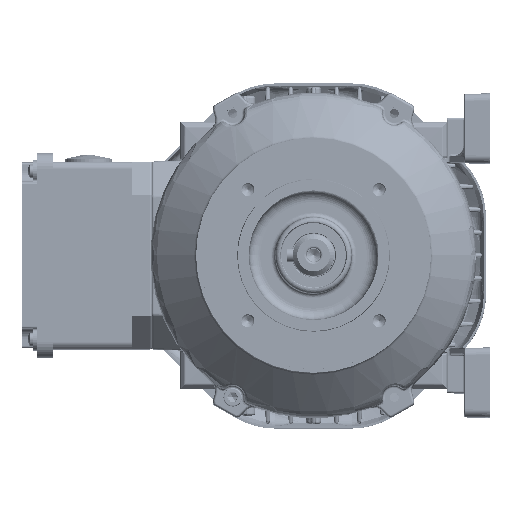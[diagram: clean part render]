
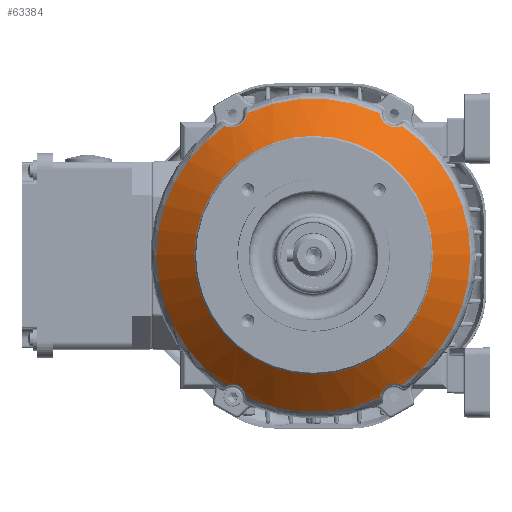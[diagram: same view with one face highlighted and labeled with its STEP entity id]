
A CAD part, top view. The second image highlights one B-rep face of the part: STEP entity #63384.
In plain terms, the highlighted conical face has half-angle 47.493 degrees and reference radius 54.373 mm.
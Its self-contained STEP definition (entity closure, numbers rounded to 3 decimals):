
#59124=CONICAL_SURFACE('',#233389,54.373,47.493);
#63384=ADVANCED_FACE('',(#81230,#81231),#59124,.T.);
#76579=B_SPLINE_CURVE_WITH_KNOTS('',3,(#362060,#362061,#362062,#362063,
#362064,#362065,#362066,#362067,#362068,#362069),.UNSPECIFIED.,.F.,.F.,
(4,2,2,2,4),(0.,0.25,0.5,0.75,1.),
 .UNSPECIFIED.);
#76580=B_SPLINE_CURVE_WITH_KNOTS('',3,(#362073,#362074,#362075,#362076,
#362077,#362078,#362079,#362080,#362081,#362082),.UNSPECIFIED.,.F.,.F.,
(4,2,2,2,4),(0.,0.25,0.5,0.75,1.),.UNSPECIFIED.);
#76581=B_SPLINE_CURVE_WITH_KNOTS('',3,(#362086,#362087,#362088,#362089,
#362090,#362091,#362092,#362093,#362094,#362095),.UNSPECIFIED.,.F.,.F.,
(4,2,2,2,4),(0.,0.25,0.5,0.75,1.),.UNSPECIFIED.);
#76582=B_SPLINE_CURVE_WITH_KNOTS('',3,(#362099,#362100,#362101,#362102,
#362103,#362104,#362105,#362106,#362107,#362108),.UNSPECIFIED.,.F.,.F.,
(4,2,2,2,4),(0.,0.25,0.5,0.75,1.),.UNSPECIFIED.);
#81230=FACE_BOUND('',#86709,.T.);
#81231=FACE_BOUND('',#86710,.T.);
#86709=EDGE_LOOP('',(#113657));
#86710=EDGE_LOOP('',(#113658,#113659,#113660,#113661,#113662,#113663,#113664,
#113665));
#113657=ORIENTED_EDGE('',*,*,#174951,.T.);
#113658=ORIENTED_EDGE('',*,*,#175169,.T.);
#113659=ORIENTED_EDGE('',*,*,#175170,.T.);
#113660=ORIENTED_EDGE('',*,*,#175171,.T.);
#113661=ORIENTED_EDGE('',*,*,#175172,.T.);
#113662=ORIENTED_EDGE('',*,*,#175173,.T.);
#113663=ORIENTED_EDGE('',*,*,#175174,.T.);
#113664=ORIENTED_EDGE('',*,*,#175175,.T.);
#113665=ORIENTED_EDGE('',*,*,#175176,.T.);
#155110=VERTEX_POINT('',#360686);
#155316=VERTEX_POINT('',#362058);
#155317=VERTEX_POINT('',#362059);
#155318=VERTEX_POINT('',#362070);
#155319=VERTEX_POINT('',#362072);
#155320=VERTEX_POINT('',#362083);
#155321=VERTEX_POINT('',#362085);
#155322=VERTEX_POINT('',#362096);
#155323=VERTEX_POINT('',#362098);
#174951=EDGE_CURVE('',#155110,#155110,#196963,.T.);
#175169=EDGE_CURVE('',#155316,#155317,#197031,.T.);
#175170=EDGE_CURVE('',#155317,#155318,#76579,.T.);
#175171=EDGE_CURVE('',#155318,#155319,#197032,.T.);
#175172=EDGE_CURVE('',#155319,#155320,#76580,.T.);
#175173=EDGE_CURVE('',#155320,#155321,#197033,.T.);
#175174=EDGE_CURVE('',#155321,#155322,#76581,.T.);
#175175=EDGE_CURVE('',#155322,#155323,#197034,.T.);
#175176=EDGE_CURVE('',#155323,#155316,#76582,.T.);
#196963=CIRCLE('',#233285,54.698);
#197031=CIRCLE('',#233385,71.777);
#197032=CIRCLE('',#233386,71.777);
#197033=CIRCLE('',#233387,71.777);
#197034=CIRCLE('',#233388,71.777);
#233285=AXIS2_PLACEMENT_3D('',#360685,#262638,#262639);
#233385=AXIS2_PLACEMENT_3D('',#362057,#262838,#262839);
#233386=AXIS2_PLACEMENT_3D('',#362071,#262840,#262841);
#233387=AXIS2_PLACEMENT_3D('',#362084,#262842,#262843);
#233388=AXIS2_PLACEMENT_3D('',#362097,#262844,#262845);
#233389=AXIS2_PLACEMENT_3D('',#362109,#262846,#262847);
#262638=DIRECTION('',(0.,0.,-1.));
#262639=DIRECTION('',(-1.,0.,0.));
#262838=DIRECTION('',(0.,0.,1.));
#262839=DIRECTION('',(1.,0.,0.));
#262840=DIRECTION('',(0.,0.,1.));
#262841=DIRECTION('',(1.,0.,0.));
#262842=DIRECTION('',(0.,0.,1.));
#262843=DIRECTION('',(1.,0.,0.));
#262844=DIRECTION('',(0.,0.,1.));
#262845=DIRECTION('',(1.,0.,0.));
#262846=DIRECTION('',(0.,0.,-1.));
#262847=DIRECTION('',(-1.,0.,0.));
#360685=CARTESIAN_POINT('',(0.,0.,60.42));
#360686=CARTESIAN_POINT('',(-54.698,0.,60.42));
#362057=CARTESIAN_POINT('',(0.,0.,44.766));
#362058=CARTESIAN_POINT('',(40.533,-59.237,44.766));
#362059=CARTESIAN_POINT('',(40.533,59.237,44.766));
#362060=CARTESIAN_POINT('',(40.533,59.237,44.766));
#362061=CARTESIAN_POINT('',(39.611,58.846,45.539));
#362062=CARTESIAN_POINT('',(38.567,58.624,46.244));
#362063=CARTESIAN_POINT('',(36.294,58.696,47.309));
#362064=CARTESIAN_POINT('',(35.048,59.019,47.651));
#362065=CARTESIAN_POINT('',(32.862,60.261,47.653));
#362066=CARTESIAN_POINT('',(31.945,61.168,47.311));
#362067=CARTESIAN_POINT('',(30.721,63.085,46.248));
#362068=CARTESIAN_POINT('',(30.375,64.102,45.54));
#362069=CARTESIAN_POINT('',(30.241,65.096,44.766));
#362070=CARTESIAN_POINT('',(30.241,65.096,44.766));
#362071=CARTESIAN_POINT('',(0.,0.,44.766));
#362072=CARTESIAN_POINT('',(-30.241,65.096,44.766));
#362073=CARTESIAN_POINT('',(-30.241,65.096,44.766));
#362074=CARTESIAN_POINT('',(-30.375,64.103,45.539));
#362075=CARTESIAN_POINT('',(-30.717,63.092,46.244));
#362076=CARTESIAN_POINT('',(-31.94,61.174,47.309));
#362077=CARTESIAN_POINT('',(-32.854,60.268,47.651));
#362078=CARTESIAN_POINT('',(-35.038,59.023,47.653));
#362079=CARTESIAN_POINT('',(-36.286,58.697,47.311));
#362080=CARTESIAN_POINT('',(-38.559,58.623,46.248));
#362081=CARTESIAN_POINT('',(-39.61,58.845,45.54));
#362082=CARTESIAN_POINT('',(-40.533,59.237,44.766));
#362083=CARTESIAN_POINT('',(-40.533,59.237,44.766));
#362084=CARTESIAN_POINT('',(0.,0.,44.766));
#362085=CARTESIAN_POINT('',(-40.533,-59.237,44.766));
#362086=CARTESIAN_POINT('',(-40.533,-59.237,44.766));
#362087=CARTESIAN_POINT('',(-39.611,-58.846,45.539));
#362088=CARTESIAN_POINT('',(-38.567,-58.624,46.244));
#362089=CARTESIAN_POINT('',(-36.294,-58.696,47.309));
#362090=CARTESIAN_POINT('',(-35.048,-59.019,47.651));
#362091=CARTESIAN_POINT('',(-32.862,-60.261,47.653));
#362092=CARTESIAN_POINT('',(-31.945,-61.168,47.311));
#362093=CARTESIAN_POINT('',(-30.721,-63.085,46.248));
#362094=CARTESIAN_POINT('',(-30.375,-64.102,45.54));
#362095=CARTESIAN_POINT('',(-30.241,-65.096,44.766));
#362096=CARTESIAN_POINT('',(-30.241,-65.096,44.766));
#362097=CARTESIAN_POINT('',(0.,0.,44.766));
#362098=CARTESIAN_POINT('',(30.241,-65.096,44.766));
#362099=CARTESIAN_POINT('',(30.241,-65.096,44.766));
#362100=CARTESIAN_POINT('',(30.375,-64.103,45.539));
#362101=CARTESIAN_POINT('',(30.717,-63.092,46.244));
#362102=CARTESIAN_POINT('',(31.94,-61.174,47.309));
#362103=CARTESIAN_POINT('',(32.854,-60.268,47.651));
#362104=CARTESIAN_POINT('',(35.038,-59.023,47.653));
#362105=CARTESIAN_POINT('',(36.286,-58.697,47.311));
#362106=CARTESIAN_POINT('',(38.559,-58.623,46.248));
#362107=CARTESIAN_POINT('',(39.61,-58.845,45.54));
#362108=CARTESIAN_POINT('',(40.533,-59.237,44.766));
#362109=CARTESIAN_POINT('',(0.,0.,60.718));
